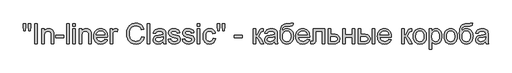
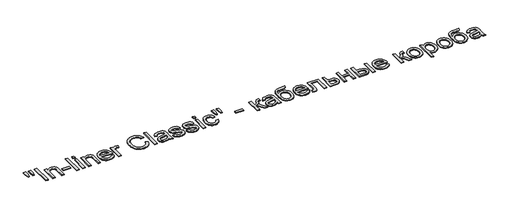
# One storey, part 22 of 28: 1 proxy.
"""IFC4 building model written with IfcOpenShell, lengths in millimetres."""

from ifc_helpers import new_model, si_unit, origin, origin_with_axes, place, context, project, spatial, polyline, outline, extrude, element, save

model = new_model("IFC4")

# Units and contexts
model_context = context("Model", 3, world=origin())
ifc_project = project(units=[si_unit("LENGTHUNIT", "METRE", prefix="MILLI")], contexts=[model_context])

# Site, building, storey
site = spatial("IfcSite", under=ifc_project)
building = spatial("IfcBuilding", under=site)
storey = spatial("IfcBuildingStorey", under=building, Name="Этаж 01", Elevation=0.0)

# Proxy
placement = place(None, origin())
element("IfcBuildingElementProxy", 1, Name="600 мм Arial", ObjectType="600 мм Arial", at=placement, inside=storey, context=model_context, shape_type="SweptSolid", body=[
    extrude(outline(polyline([(-5005.1661937, 9831.1726163), (-5023.5602935, 9947.5704795), (-5023.5602935, 10047.781535), (-4948.2180609, 10047.781535), (-4948.2180609, 9947.5704795), (-4964.6991743, 9831.1726163), (-5005.1661937, 9831.1726163)])), origin_with_axes(), (0.0, 0.0, 1.0), 20.0),
    extrude(outline(polyline([(-4854.9231869, 9831.1726163), (-4872.8758283, 9947.5704795), (-4872.8758283, 10047.781535), (-4797.5335957, 10047.781535), (-4797.5335957, 9947.5704795), (-4815.1919314, 9831.1726163), (-4854.9231869, 9831.1726163)])), origin_with_axes(), (0.0, 0.0, 1.0), 20.0),
    extrude(outline(polyline([(-4684.5202467, 9445.0436741), (-4684.5202467, 10047.781535), (-4609.1780141, 10047.781535), (-4609.1780141, 9445.0436741), (-4684.5202467, 9445.0436741)])), origin_with_axes(), (0.0, 0.0, 1.0), 20.0),
    extrude(outline(polyline([(-4467.911328, 9445.0436741), (-4467.911328, 9887.6792907), (-4392.5690954, 9887.6792907), (-4392.5690954, 9825.8751155), (-4366.3942914, 9857.0347205), (-4334.9587749, 9879.2915812), (-4298.2625459, 9892.6456976), (-4256.3056044, 9897.0970698), (-4219.1679169, 9893.5102203), (-4185.1572265, 9882.749672), (-4156.7935247, 9866.158194), (-4136.5968031, 9845.0785557), (-4122.8931988, 9819.5659393), (-4114.0088486, 9789.6755272), (-4110.0357231, 9716.8348922), (-4110.0357231, 9445.0436741), (-4185.3779557, 9445.0436741), (-4185.3779557, 9706.6813491), (-4187.5484595, 9745.6400524), (-4194.0599708, 9773.3415666), (-4206.0713179, 9793.1888003), (-4224.7413292, 9808.5846617), (-4248.672053, 9818.4622933), (-4276.4655377, 9821.7548372), (-4299.3431993, 9819.9062302), (-4320.592983, 9814.3604091), (-4340.2148889, 9805.1173739), (-4358.208917, 9792.1771248), (-4373.241495, 9774.0681336), (-4383.9790508, 9749.3188723), (-4390.4215842, 9717.9293411), (-4392.5690954, 9679.8995398), (-4392.5690954, 9445.0436741), (-4467.911328, 9445.0436741)])), origin_with_axes(), (0.0, 0.0, 1.0), 20.0),
    extrude(outline(polyline([(-4044.1112695, 9623.9814766), (-4044.1112695, 9699.3237092), (-3808.6667926, 9699.3237092), (-3808.6667926, 9623.9814766), (-4044.1112695, 9623.9814766)])), origin_with_axes(), (0.0, 0.0, 1.0), 20.0),
    extrude(outline(polyline([(-3723.9067809, 9445.0436741), (-3723.9067809, 10047.781535), (-3648.5645483, 10047.781535), (-3648.5645483, 9445.0436741), (-3723.9067809, 9445.0436741)])), origin_with_axes(), (0.0, 0.0, 1.0), 20.0),
    extrude(outline(polyline([(-3535.5511994, 9972.4393024), (-3535.5511994, 10047.781535), (-3460.2089668, 10047.781535), (-3460.2089668, 9972.4393024), (-3535.5511994, 9972.4393024)])), origin_with_axes(), (0.0, 0.0, 1.0), 20.0),
    extrude(outline(polyline([(-3535.5511994, 9445.0436741), (-3535.5511994, 9887.6792907), (-3460.2089668, 9887.6792907), (-3460.2089668, 9445.0436741), (-3535.5511994, 9445.0436741)])), origin_with_axes(), (0.0, 0.0, 1.0), 20.0),
    extrude(outline(polyline([(-3347.1956179, 9445.0436741), (-3347.1956179, 9887.6792907), (-3271.8533853, 9887.6792907), (-3271.8533853, 9825.8751155), (-3245.6785813, 9857.0347205), (-3214.2430648, 9879.2915812), (-3177.5468358, 9892.6456976), (-3135.5898942, 9897.0970698), (-3098.4522068, 9893.5102203), (-3064.4415164, 9882.749672), (-3036.0778146, 9866.158194), (-3015.881093, 9845.0785557), (-3002.1774887, 9819.5659393), (-2993.2931385, 9789.6755272), (-2989.320013, 9716.8348922), (-2989.320013, 9445.0436741), (-3064.6622456, 9445.0436741), (-3064.6622456, 9706.6813491), (-3066.8327493, 9745.6400524), (-3073.3442607, 9773.3415666), (-3085.3556078, 9793.1888003), (-3104.0256191, 9808.5846617), (-3127.9563428, 9818.4622933), (-3155.7498276, 9821.7548372), (-3178.6274892, 9819.9062302), (-3199.8772729, 9814.3604091), (-3219.4991788, 9805.1173739), (-3237.4932069, 9792.1771248), (-3252.5257849, 9774.0681336), (-3263.2633407, 9749.3188723), (-3269.7058741, 9717.9293411), (-3271.8533853, 9679.8995398), (-3271.8533853, 9445.0436741), (-3347.1956179, 9445.0436741)])), origin_with_axes(), (0.0, 0.0, 1.0), 20.0),
    extrude(outline(polyline([(-2575.8206504, 9576.8925812), (-2501.9499458, 9567.4748021), (-2513.2761127, 9537.8878926), (-2528.5662081, 9511.8142562), (-2547.820232, 9489.2538929), (-2571.0381844, 9470.2068026), (-2597.9809421, 9455.0776555), (-2628.4093816, 9444.2711219), (-2662.323503, 9437.7872018), (-2699.7233064, 9435.625895), (-2746.4719109, 9439.3552988), (-2788.1253498, 9450.5435099), (-2824.6836231, 9469.1905286), (-2856.1467307, 9495.2963547), (-2881.4478149, 9528.1344213), (-2899.5200179, 9566.9781614), (-2910.3633397, 9611.8275752), (-2913.9777804, 9662.6826625), (-2910.3265515, 9715.2621966), (-2899.3728651, 9761.606131), (-2881.1167211, 9801.7144655), (-2855.5581195, 9835.5872002), (-2824.1777853, 9862.4977681), (-2788.4564436, 9881.7196024), (-2748.3940943, 9893.2527029), (-2703.9907375, 9897.0970698), (-2661.0175219, 9893.2619), (-2622.1553877, 9881.7563906), (-2587.4043347, 9862.5805416), (-2556.764363, 9835.734353), (-2531.7529859, 9801.9351947), (-2513.8877165, 9761.9004366), (-2503.1685549, 9715.6300786), (-2499.595501, 9663.1241209), (-2500.0369594, 9642.8170347), (-2838.6355477, 9642.8170347), (-2834.2715476, 9612.7518787), (-2825.594131, 9586.4207249), (-2812.6032981, 9563.8235733), (-2795.2990487, 9544.960424), (-2774.6378762, 9530.0887944), (-2751.5762736, 9519.4662017), (-2726.114241, 9513.0926462), (-2698.2517784, 9510.9681277), (-2658.1526409, 9514.904465), (-2624.3810737, 9526.713477), (-2596.9370769, 9547.1309278), (-2575.8206504, 9576.8925812)]), holes=[polyline([(-2838.6355477, 9718.1592673), (-2574.9377336, 9718.1592673), (-2585.1280649, 9757.9640992), (-2593.8928534, 9773.6174781), (-2605.1040572, 9786.4381656), (-2625.6502666, 9801.8892094), (-2649.0291674, 9812.9256693), (-2675.2407596, 9819.5475452), (-2704.2850431, 9821.7548372), (-2730.7771453, 9819.9936021), (-2755.0711525, 9814.709897), (-2777.1670649, 9805.9037217), (-2797.0648823, 9793.5750763), (-2813.7621263, 9778.294178), (-2826.2563186, 9760.6312437), (-2834.5474591, 9740.5862735), (-2838.6355477, 9718.1592673)])]), origin_with_axes(), (0.0, 0.0, 1.0), 20.0),
    extrude(outline(polyline([(-2424.2532684, 9445.0436741), (-2424.2532684, 9887.6792907), (-2358.3288148, 9887.6792907), (-2358.3288148, 9822.1962956), (-2333.9750268, 9860.1617175), (-2311.5342251, 9882.5289428), (-2289.0198469, 9893.455038), (-2264.4453297, 9897.0970698), (-2226.9213662, 9891.2845343), (-2188.8087915, 9873.8469277), (-2213.9719199, 9806.3037934), (-2240.4594236, 9817.8920762), (-2266.9469272, 9821.7548372), (-2289.4429112, 9818.039229), (-2309.5476623, 9806.8924046), (-2325.7896524, 9789.1604924), (-2336.6973535, 9765.6896211), (-2345.8576152, 9723.6039209), (-2348.9110358, 9677.6922479), (-2348.9110358, 9445.0436741), (-2424.2532684, 9445.0436741)])), origin_with_axes(), (0.0, 0.0, 1.0), 20.0),
    extrude(outline(polyline([(-1473.0575816, 9659.2981481), (-1397.715349, 9639.8739788), (-1412.6237669, 9593.0196082), (-1432.4801976, 9552.0789406), (-1457.2846411, 9517.0519761), (-1487.0370975, 9487.9387148), (-1521.066182, 9465.0518561), (-1558.7005101, 9448.7041), (-1599.9400818, 9438.8954463), (-1644.784897, 9435.625895), (-1690.7287597, 9438.0999015), (-1732.1752649, 9445.5219207), (-1769.1244128, 9457.8919528), (-1801.5762033, 9475.2099977), (-1829.9766934, 9497.2185381), (-1854.7719398, 9523.6600565), (-1875.9619428, 9554.5345529), (-1893.5467021, 9589.8420274), (-1907.3560725, 9628.0557697), (-1917.2199085, 9667.6490694), (-1923.1382101, 9708.6219266), (-1925.1109773, 9750.9743413), (-1922.8806927, 9796.4169648), (-1916.1898389, 9838.86135), (-1905.038416, 9878.3074969), (-1889.4264238, 9914.7554056), (-1869.7033503, 9947.6026692), (-1846.2186835, 9976.2468811), (-1818.9724232, 10000.6880411), (-1787.9645695, 10020.9261494), (-1754.2481847, 10036.7956589), (-1718.8763308, 10048.1310229), (-1681.849008, 10054.9322413), (-1643.1662162, 10057.1993141), (-1600.073439, 10054.2654552), (-1560.5583142, 10045.4638784), (-1524.6208418, 10030.7945839), (-1492.2610218, 10010.2575715), (-1464.0122831, 9984.3954672), (-1440.4080546, 9953.750897), (-1421.4483362, 9918.3238609), (-1407.1331281, 9878.1143588), (-1482.4753607, 9860.1617175), (-1494.3395551, 9889.7900137), (-1508.5949824, 9915.1048935), (-1525.2416427, 9936.1063569), (-1544.2795359, 9952.7944039), (-1565.8190267, 9965.5093253), (-1589.9704797, 9974.5914121), (-1616.7338949, 9980.0406641), (-1646.1092722, 9981.8570815), (-1679.9084305, 9979.8429276), (-1710.8197151, 9973.8004658), (-1738.8431261, 9963.7296962), (-1763.9786634, 9949.6306187), (-1785.9090289, 9932.1378298), (-1804.3169242, 9911.885926), (-1819.2023494, 9888.8749072), (-1830.5653046, 9863.1047734), (-1844.9678847, 9807.9592624), (-1849.7687447, 9751.1214941), (-1844.0849679, 9681.5182206), (-1836.9802468, 9650.248251), (-1827.0336374, 9621.3327262), (-1814.0841912, 9595.3464618), (-1797.9709598, 9572.8642733), (-1778.6939432, 9553.8861609), (-1756.2531415, 9538.4121245), (-1731.7384051, 9526.4053759), (-1706.2395843, 9517.8291269), (-1679.7566792, 9512.6833775), (-1652.2896897, 9510.9681277), (-1619.5343965, 9513.3041783), (-1589.4002626, 9520.3123303), (-1561.8872879, 9531.9925837), (-1536.9954724, 9548.3449384), (-1515.3134273, 9569.295818), (-1497.4297638, 9594.7716462), (-1483.3444819, 9624.7724229), (-1473.0575816, 9659.2981481)])), origin_with_axes(), (0.0, 0.0, 1.0), 20.0),
    extrude(outline(polyline([(-1303.5375583, 9445.0436741), (-1303.5375583, 10047.781535), (-1228.1953257, 10047.781535), (-1228.1953257, 9445.0436741), (-1303.5375583, 9445.0436741)])), origin_with_axes(), (0.0, 0.0, 1.0), 20.0),
    extrude(outline(polyline([(-832.6486044, 9501.5503486), (-868.6458577, 9470.6850492), (-905.7099687, 9450.4883276), (-944.6870661, 9439.3415032), (-986.4232784, 9435.625895), (-1019.9695179, 9437.8607782), (-1049.3862819, 9444.5654275), (-1074.6735705, 9455.7398431), (-1095.8313838, 9471.384025), (-1112.5378249, 9490.5046917), (-1124.4709971, 9512.1085618), (-1131.6309004, 9536.1956355), (-1134.0175349, 9562.7659126), (-1130.4122913, 9593.999094), (-1119.5965607, 9622.3627958), (-1102.9131122, 9646.6430075), (-1081.7047152, 9665.6257184), (-1056.78071, 9679.9731162), (-1028.9504371, 9690.3473885), (-963.7617475, 9701.678154), (-886.7272577, 9713.5975306), (-833.0900628, 9727.5770464), (-832.6486044, 9744.3524654), (-837.8357406, 9777.9768798), (-844.3196607, 9790.4296853), (-853.397149, 9799.9762231), (-869.0873161, 9809.5043667), (-888.1987857, 9816.3101836), (-936.6856327, 9821.7548372), (-981.5672361, 9818.1311995), (-1012.9107821, 9807.2602866), (-1034.284726, 9787.1555355), (-1049.2575232, 9755.8303836), (-1124.5997558, 9765.2481627), (-1111.5215509, 9806.4509462), (-1092.005411, 9838.8245618), (-1064.2303204, 9863.58302), (-1026.3752631, 9881.9403316), (-980.077314, 9893.3078852), (-926.973548, 9897.0970698), (-876.0402858, 9893.7493436), (-835.6652368, 9883.7061652), (-805.2230017, 9868.6046093), (-784.0881811, 9850.0817508), (-770.0718771, 9827.1810966), (-760.9851918, 9798.9461535), (-757.3063718, 9733.0216999), (-757.3063718, 9639.2853676), (-753.4803991, 9508.3929537), (-747.8150164, 9476.0377322), (-738.4708137, 9445.0436741), (-813.8130463, 9445.0436741), (-825.8795757, 9471.2368722), (-832.6486044, 9501.5503486)]), holes=[polyline([(-832.6486044, 9652.2348138), (-883.269167, 9639.6900378), (-954.1968156, 9629.1318245), (-1019.0176232, 9616.9181423), (-1035.8850127, 9608.567221), (-1048.3746064, 9597.0525145), (-1056.1001283, 9583.2569397), (-1058.6753023, 9568.0634133), (-1053.0651019, 9545.6593998), (-1036.2345006, 9527.3020882), (-1008.5513804, 9515.0516178), (-970.3836234, 9510.9681277), (-929.916604, 9515.4746821), (-894.158474, 9528.9943454), (-865.1693728, 9548.9151555), (-845.0094395, 9572.62515), (-836.069907, 9597.0525145), (-833.0900628, 9630.8976581), (-832.6486044, 9652.2348138)])]), origin_with_axes(), (0.0, 0.0, 1.0), 20.0),
    extrude(outline(polyline([(-681.9641392, 9576.8925812), (-606.6219066, 9586.3103603), (-602.0693669, 9569.1302711), (-594.7393182, 9554.0838975), (-584.6317603, 9541.1712395), (-571.7466935, 9530.392297), (-556.0473293, 9521.8942229), (-537.4968797, 9515.82417), (-491.8427241, 9510.9681277), (-446.7403915, 9515.4194998), (-429.2108144, 9520.983715), (-415.0289635, 9528.7736162), (-396.2669818, 9548.1242092), (-391.5764863, 9558.9583339), (-390.0129878, 9570.5650109), (-391.5856834, 9580.736948), (-396.30377, 9589.768451), (-415.1761163, 9604.4101544), (-443.3926653, 9613.9750863), (-492.7256409, 9625.8944629), (-561.4827858, 9645.7784848), (-606.1804482, 9662.7562389), (-634.8936379, 9681.2790973), (-655.6973648, 9705.7984323), (-668.3341113, 9734.7507453), (-672.5463601, 9766.5725379), (-669.1618458, 9795.7639742), (-659.0083027, 9822.7113304), (-643.0054359, 9846.3477486), (-622.0729504, 9865.606371), (-601.2692236, 9877.7280827), (-574.1747146, 9887.9000199), (-542.8495627, 9894.7978073), (-509.3539071, 9897.0970698), (-460.3152371, 9893.3998557), (-417.6777139, 9882.3082136), (-383.3911119, 9864.9073952), (-359.4052058, 9842.2826525), (-343.5127037, 9812.7601224), (-333.5063134, 9774.6659418), (-408.848546, 9765.2481627), (-418.3582956, 9788.9581573), (-437.1754596, 9806.8188282), (-465.4839792, 9818.0208349), (-503.4677952, 9821.7548372), (-546.7307178, 9818.1863818), (-575.5726662, 9807.4810158), (-591.7962622, 9792.029972), (-597.2041275, 9774.2244834), (-594.9600474, 9762.6362006), (-588.2278068, 9752.2987165), (-576.7131004, 9743.0648784), (-560.1216224, 9735.6704503), (-495.2272385, 9719.6307953), (-384.6419107, 9684.166971), (-355.4320803, 9667.207611), (-333.2855842, 9643.9942571), (-319.3244625, 9614.4533329), (-314.6707552, 9578.511262), (-320.1338029, 9541.3551805), (-336.5229457, 9506.4063909), (-363.2127845, 9476.4056142), (-399.5779197, 9454.0935712), (-443.5030299, 9440.2428141), (-492.8727937, 9435.625895), (-533.4225866, 9437.8515811), (-568.8404257, 9444.5286393), (-599.126311, 9455.6570697), (-624.2802424, 9471.2368722), (-644.8264518, 9491.1944704), (-661.2891711, 9515.456288), (-673.6684002, 9544.0223249), (-681.9641392, 9576.8925812)])), origin_with_axes(), (0.0, 0.0, 1.0), 20.0),
    extrude(outline(polyline([(-258.1640808, 9576.8925812), (-182.8218482, 9586.3103603), (-178.2693085, 9569.1302711), (-170.9392597, 9554.0838975), (-160.8317019, 9541.1712395), (-147.946635, 9530.392297), (-132.2472709, 9521.8942229), (-113.6968213, 9515.82417), (-68.0426657, 9510.9681277), (-22.9403331, 9515.4194998), (-5.410756, 9520.983715), (8.7710949, 9528.7736162), (27.5330767, 9548.1242092), (32.2235721, 9558.9583339), (33.7870706, 9570.5650109), (32.2143751, 9580.736948), (27.4962885, 9589.768451), (8.6239421, 9604.4101544), (-19.5926069, 9613.9750863), (-68.9255825, 9625.8944629), (-137.6827274, 9645.7784848), (-182.3803898, 9662.7562389), (-211.0935795, 9681.2790973), (-231.8973063, 9705.7984323), (-244.5340529, 9734.7507453), (-248.7463017, 9766.5725379), (-245.3617873, 9795.7639742), (-235.2082443, 9822.7113304), (-219.2053775, 9846.3477486), (-198.272892, 9865.606371), (-177.4691651, 9877.7280827), (-150.3746562, 9887.9000199), (-119.0495043, 9894.7978073), (-85.5538486, 9897.0970698), (-36.5151787, 9893.3998557), (6.1223446, 9882.3082136), (40.4089465, 9864.9073952), (64.3948526, 9842.2826525), (80.2873548, 9812.7601224), (90.2937451, 9774.6659418), (14.9515124, 9765.2481627), (5.4417629, 9788.9581573), (-13.3754012, 9806.8188282), (-41.6839207, 9818.0208349), (-79.6677367, 9821.7548372), (-122.9306593, 9818.1863818), (-151.7726078, 9807.4810158), (-167.9962038, 9792.029972), (-173.4040691, 9774.2244834), (-171.1599889, 9762.6362006), (-164.4277484, 9752.2987165), (-152.913042, 9743.0648784), (-136.321564, 9735.6704503), (-71.42718, 9719.6307953), (39.1581477, 9684.166971), (68.3679781, 9667.207611), (90.5144743, 9643.9942571), (104.475596, 9614.4533329), (109.1293032, 9578.511262), (103.6662556, 9541.3551805), (87.2771127, 9506.4063909), (60.5872739, 9476.4056142), (24.2221387, 9454.0935712), (-19.7029715, 9440.2428141), (-69.0727353, 9435.625895), (-109.6225282, 9437.8515811), (-145.0403673, 9444.5286393), (-175.3262525, 9455.6570697), (-200.4801839, 9471.2368722), (-221.0263934, 9491.1944704), (-237.4891126, 9515.456288), (-249.8683418, 9544.0223249), (-258.1640808, 9576.8925812)])), origin_with_axes(), (0.0, 0.0, 1.0), 20.0),
    extrude(outline(polyline([(193.8893149, 9972.4393024), (193.8893149, 10047.781535), (269.2315475, 10047.781535), (269.2315475, 9972.4393024), (193.8893149, 9972.4393024)])), origin_with_axes(), (0.0, 0.0, 1.0), 20.0),
    extrude(outline(polyline([(193.8893149, 9445.0436741), (193.8893149, 9887.6792907), (269.2315475, 9887.6792907), (269.2315475, 9445.0436741), (193.8893149, 9445.0436741)])), origin_with_axes(), (0.0, 0.0, 1.0), 20.0),
    extrude(outline(polyline([(664.7782687, 9605.1459184), (740.1205013, 9595.7281393), (731.9259299, 9560.176943), (719.1144394, 9528.7184339), (701.6860299, 9501.352612), (679.6407013, 9478.0794773), (653.9073558, 9459.5060351), (625.4148952, 9446.2392906), (594.1633198, 9438.2792439), (560.1526293, 9435.625895), (517.8967836, 9439.3277076), (480.0095367, 9450.4331453), (446.4908884, 9468.9422082), (417.3408388, 9494.8548963), (393.7458073, 9527.6837658), (376.8922134, 9566.9413732), (366.7800571, 9612.6277185), (363.4093383, 9664.7428016), (369.1666915, 9731.7892953), (376.363383, 9761.9602174), (386.4387512, 9789.8962564), (399.4617738, 9815.0363922), (415.5014288, 9836.8196049), (434.5577161, 9855.2458943), (456.6306359, 9870.3152605), (480.722308, 9882.0323021), (505.8348527, 9890.4016175), (531.9682699, 9895.4232067), (559.1225597, 9897.0970698), (592.5492375, 9894.7978073), (622.784539, 9887.9000199), (649.8284641, 9876.4037076), (673.681013, 9860.3088703), (693.9375154, 9839.98339), (710.193301, 9815.7951489), (722.44837, 9787.7441467), (730.7027223, 9755.8303836), (655.3604897, 9746.4126046), (641.6936735, 9779.2828608), (620.4117001, 9802.8457026), (592.6917918, 9817.0275535), (559.7111709, 9821.7548372), (534.1111826, 9819.4279836), (511.0219888, 9812.4474227), (490.4435897, 9800.8131546), (472.3759853, 9784.5251793), (457.665304, 9763.2064176), (447.1576745, 9736.4797907), (440.8530968, 9704.3452984), (438.7515709, 9666.8029408), (440.8071115, 9628.6949646), (446.9737335, 9596.1879918), (457.2514367, 9569.2820224), (471.6402213, 9547.9770564), (489.3491408, 9531.7856501), (509.5872491, 9520.2203598), (532.354546, 9513.2811857), (557.6510317, 9510.9681277), (596.6649173, 9516.743875), (613.5369053, 9523.9635591), (628.6522568, 9534.0711169), (641.5879075, 9547.176913), (651.920793, 9563.391312), (659.6509134, 9582.7143138), (664.7782687, 9605.1459184)])), origin_with_axes(), (0.0, 0.0, 1.0), 20.0),
    extrude(outline(polyline([(805.6034965, 9831.1726163), (787.2093967, 9947.5704795), (787.2093967, 10047.781535), (862.5516293, 10047.781535), (862.5516293, 9947.5704795), (846.070516, 9831.1726163), (805.6034965, 9831.1726163)])), origin_with_axes(), (0.0, 0.0, 1.0), 20.0),
    extrude(outline(polyline([(955.8465033, 9831.1726163), (937.8938619, 9947.5704795), (937.8938619, 10047.781535), (1013.2360946, 10047.781535), (1013.2360946, 9947.5704795), (995.5777588, 9831.1726163), (955.8465033, 9831.1726163)])), origin_with_axes(), (0.0, 0.0, 1.0), 20.0),
    extrude(outline(polyline([(1305.1872459, 9623.9814766), (1305.1872459, 9699.3237092), (1540.6317228, 9699.3237092), (1540.6317228, 9623.9814766), (1305.1872459, 9623.9814766)])), origin_with_axes(), (0.0, 0.0, 1.0), 20.0),
    extrude(outline(polyline([(1860.8362114, 9887.6792907), (1936.1784441, 9887.6792907), (1936.1784441, 9699.3237092), (1966.8230143, 9702.7082235), (1986.6518538, 9712.8617666), (2004.199825, 9739.3492703), (2028.0017901, 9791.7356664), (2047.1868361, 9834.5755247), (2062.3619684, 9859.7938355), (2076.5254252, 9873.534228), (2092.6754448, 9881.9403316), (2115.024276, 9886.2445509), (2147.7841677, 9887.6792907), (2162.2051419, 9887.6792907), (2162.2051419, 9811.8955997), (2141.8980558, 9812.3370581), (2118.3536081, 9810.3504953), (2105.1098562, 9804.390807), (2094.367702, 9787.799329), (2079.2109638, 9754.8003141), (2063.3000675, 9721.7461168), (2048.823911, 9701.1631192), (2031.2943339, 9687.4227266), (2006.2231759, 9674.8963447), (2030.0987174, 9664.2921462), (2053.7535297, 9645.5761497), (2077.1876128, 9618.7483552), (2100.4009667, 9583.8087627), (2181.0407, 9445.0436741), (2095.3977716, 9445.0436741), (2016.376719, 9580.8657067), (1995.0395633, 9617.0101128), (1976.6454635, 9638.3288744), (1958.0674228, 9648.7583289), (1936.1784441, 9652.2348138), (1936.1784441, 9445.0436741), (1860.8362114, 9445.0436741), (1860.8362114, 9887.6792907)])), origin_with_axes(), (0.0, 0.0, 1.0), 20.0),
    extrude(outline(polyline([(2510.6629677, 9501.5503486), (2474.6657145, 9470.6850492), (2437.6016035, 9450.4883276), (2398.6245061, 9439.3415032), (2356.8882937, 9435.625895), (2323.3420543, 9437.8607782), (2293.9252903, 9444.5654275), (2268.6380016, 9455.7398431), (2247.4801884, 9471.384025), (2230.7737473, 9490.5046917), (2218.8405751, 9512.1085618), (2211.6806717, 9536.1956355), (2209.2940373, 9562.7659126), (2212.8992808, 9593.999094), (2223.7150115, 9622.3627958), (2240.39846, 9646.6430075), (2261.606857, 9665.6257184), (2286.5308622, 9679.9731162), (2314.3611351, 9690.3473885), (2379.5498246, 9701.678154), (2456.5843144, 9713.5975306), (2510.2215093, 9727.5770464), (2510.6629677, 9744.3524654), (2505.4758316, 9777.9768798), (2498.9919114, 9790.4296853), (2489.9144232, 9799.9762231), (2474.2242561, 9809.5043667), (2455.1127865, 9816.3101836), (2406.6259395, 9821.7548372), (2361.7443361, 9818.1311995), (2330.4007901, 9807.2602866), (2309.0268462, 9787.1555355), (2294.054049, 9755.8303836), (2218.7118164, 9765.2481627), (2231.7900213, 9806.4509462), (2251.3061611, 9838.8245618), (2279.0812518, 9863.58302), (2316.9363091, 9881.9403316), (2363.2342582, 9893.3078852), (2416.3380242, 9897.0970698), (2467.2712864, 9893.7493436), (2507.6463354, 9883.7061652), (2538.0885705, 9868.6046093), (2559.2233911, 9850.0817508), (2573.2396951, 9827.1810966), (2582.3263804, 9798.9461535), (2586.0052003, 9733.0216999), (2586.0052003, 9639.2853676), (2589.8311731, 9508.3929537), (2595.4965558, 9476.0377322), (2604.8407585, 9445.0436741), (2529.4985259, 9445.0436741), (2517.4319964, 9471.2368722), (2510.6629677, 9501.5503486)]), holes=[polyline([(2510.6629677, 9652.2348138), (2460.0424052, 9639.6900378), (2389.1147565, 9629.1318245), (2324.293949, 9616.9181423), (2307.4265595, 9608.567221), (2294.9369658, 9597.0525145), (2287.2114439, 9583.2569397), (2284.6362699, 9568.0634133), (2290.2464703, 9545.6593998), (2307.0770716, 9527.3020882), (2334.7601917, 9515.0516178), (2372.9279487, 9510.9681277), (2413.3949682, 9515.4746821), (2449.1530981, 9528.9943454), (2478.1421994, 9548.9151555), (2498.3021327, 9572.62515), (2507.2416652, 9597.0525145), (2510.2215093, 9630.8976581), (2510.6629677, 9652.2348138)])]), origin_with_axes(), (0.0, 0.0, 1.0), 20.0),
    extrude(outline(polyline([(3000.3874797, 10057.1993141), (3066.3119332, 10057.1993141), (3059.1750225, 10021.3860019), (3046.8877639, 9998.4117713), (3029.8548275, 9984.8185315), (3008.4808836, 9977.1481919), (2973.6424587, 9973.6165248), (2916.2160792, 9972.4393024), (2839.6046537, 9968.0982949), (2812.1560583, 9962.6720354), (2791.9455412, 9955.0752722), (2776.5220886, 9945.0872761), (2763.4346866, 9932.4873177), (2752.6833353, 9917.2753972), (2744.2680347, 9899.4515146), (2732.9924515, 9855.7103453), (2728.1548033, 9801.0062926), (2758.4498856, 9843.0919929), (2793.4170692, 9873.1111637), (2812.6618961, 9883.6049976), (2833.0931424, 9891.1005933), (2877.5148933, 9897.0970698), (2918.5613269, 9893.2848926), (2955.9105465, 9881.8483611), (2989.562552, 9862.7874752), (3019.5173435, 9836.102235), (3044.1102548, 9802.9146805), (3061.6766201, 9764.3468518), (3072.2164393, 9720.398749), (3075.7297123, 9671.070372), (3073.9868714, 9633.3348763), (3068.7583485, 9599.1494419), (3060.0441437, 9568.5140687), (3047.8442571, 9541.4287569), (3017.3652338, 9496.5655475), (2981.6990744, 9463.2170447), (2960.8401652, 9451.1459167), (2936.5231653, 9442.5236824), (2908.7480747, 9437.3503419), (2877.5148933, 9435.625895), (2841.3842829, 9437.8469826), (2809.5119065, 9444.5102452), (2781.8977642, 9455.615683), (2758.5418561, 9471.1632958), (2738.5520682, 9490.1735979), (2721.0362867, 9511.6671034), (2705.9945116, 9535.6438125), (2693.4267429, 9562.103725), (2683.5123232, 9594.9417916), (2676.4305948, 9638.0529629), (2672.1815577, 9691.4372389), (2670.765212, 9755.0946197), (2674.3382659, 9834.4237734), (2685.0574275, 9899.6538497), (2702.9226969, 9950.7848485), (2714.535122, 9971.0631938), (2727.9340741, 9987.8167698), (2760.3582734, 10014.0513546), (2800.4620094, 10032.7903437), (2848.2452821, 10044.0337372), (2903.7080914, 10047.781535), (2987.5851863, 10049.4737922), (2995.7889548, 10052.2513013), (3000.3874797, 10057.1993141)]), holes=[polyline([(3000.3874797, 9673.4248167), (2998.3457346, 9704.543035), (2992.2204994, 9732.7090002), (2982.011774, 9757.9227125), (2967.7195585, 9780.1841717), (2949.7117349, 9798.3713379), (2928.3561851, 9811.3621708), (2903.6529091, 9819.1566706), (2875.6019069, 9821.7548372), (2846.3276972, 9819.0095178), (2820.6035487, 9810.7735596), (2798.4294614, 9797.0469627), (2779.8054354, 9777.829727), (2765.0625644, 9754.0231633), (2754.5319423, 9726.5285827), (2748.2135691, 9695.3459851), (2746.1074446, 9660.4753705), (2748.4342983, 9626.3313228), (2755.4148591, 9596.4455092), (2767.0491272, 9570.8179297), (2783.3371026, 9549.4485843), (2803.0371834, 9532.6133845), (2824.907768, 9520.5882418), (2848.9488564, 9513.3731562), (2875.1604485, 9510.9681277), (2901.7307256, 9513.7502352), (2925.6706465, 9522.096558), (2946.9802111, 9536.0070959), (2965.6594194, 9555.4818491), (2980.8529458, 9579.5459301), (2991.7054646, 9607.2244517), (2998.2169759, 9638.5174139), (3000.3874797, 9673.4248167)])]), origin_with_axes(), (0.0, 0.0, 1.0), 20.0),
    extrude(outline(polyline([(3479.8112958, 9576.8925812), (3553.6820005, 9567.4748021), (3542.3558335, 9537.8878926), (3527.0657381, 9511.8142562), (3507.8117142, 9489.2538929), (3484.5937618, 9470.2068026), (3457.6510041, 9455.0776555), (3427.2225646, 9444.2711219), (3393.3084432, 9437.7872018), (3355.9086398, 9435.625895), (3309.1600353, 9439.3552988), (3267.5065964, 9450.5435099), (3230.9483231, 9469.1905286), (3199.4852155, 9495.2963547), (3174.1841313, 9528.1344213), (3156.1119283, 9566.9781614), (3145.2686065, 9611.8275752), (3141.6541659, 9662.6826625), (3145.3053947, 9715.2621966), (3156.2590811, 9761.606131), (3174.5152251, 9801.7144655), (3200.0738267, 9835.5872002), (3231.4541609, 9862.4977681), (3267.1755026, 9881.7196024), (3307.2378519, 9893.2527029), (3351.6412087, 9897.0970698), (3394.6144243, 9893.2619), (3433.4765585, 9881.7563906), (3468.2276115, 9862.5805416), (3498.8675832, 9835.734353), (3523.8789603, 9801.9351947), (3541.7442297, 9761.9004366), (3552.4633913, 9715.6300786), (3556.0364452, 9663.1241209), (3555.5949868, 9642.8170347), (3216.9963985, 9642.8170347), (3221.3603986, 9612.7518787), (3230.0378152, 9586.4207249), (3243.0286481, 9563.8235733), (3260.3328975, 9544.960424), (3280.9940701, 9530.0887944), (3304.0556726, 9519.4662017), (3329.5177052, 9513.0926462), (3357.3801678, 9510.9681277), (3397.4793053, 9514.904465), (3431.2508725, 9526.713477), (3458.6948693, 9547.1309278), (3479.8112958, 9576.8925812)]), holes=[polyline([(3216.9963985, 9718.1592673), (3480.6942126, 9718.1592673), (3470.5038813, 9757.9640992), (3461.7390928, 9773.6174781), (3450.527889, 9786.4381656), (3429.9816796, 9801.8892094), (3406.6027788, 9812.9256693), (3380.3911866, 9819.5475452), (3351.3469031, 9821.7548372), (3324.8548009, 9819.9936021), (3300.5607937, 9814.709897), (3278.4648813, 9805.9037217), (3258.5670639, 9793.5750763), (3241.8698199, 9778.294178), (3229.3756276, 9760.6312437), (3221.0844871, 9740.5862735), (3216.9963985, 9718.1592673)])]), origin_with_axes(), (0.0, 0.0, 1.0), 20.0),
    extrude(outline(polyline([(3669.0497941, 9887.6792907), (4008.0898409, 9887.6792907), (4008.0898409, 9445.4851325), (3932.7476083, 9445.4851325), (3932.7476083, 9812.3370581), (3744.3920268, 9812.3370581), (3744.3920268, 9601.1727929), (3743.1228339, 9539.8836525), (3739.3152552, 9503.7576405), (3729.8055056, 9481.7031149), (3711.4298, 9462.6284335), (3683.5443447, 9449.439864), (3645.5053464, 9445.0436741), (3584.2897825, 9448.8696469), (3584.2897825, 9520.3859067), (3617.9877732, 9520.3859067), (3638.423618, 9521.544735), (3652.053646, 9525.0212199), (3660.5701142, 9531.0176964), (3665.6652798, 9539.7364997), (3669.0497941, 9605.440224), (3669.0497941, 9887.6792907)])), origin_with_axes(), (0.0, 0.0, 1.0), 20.0),
    extrude(outline(polyline([(4121.1031898, 9887.6792907), (4196.4454224, 9887.6792907), (4196.4454224, 9727.5770464), (4283.2655733, 9727.5770464), (4323.3463167, 9725.2180031), (4358.5342295, 9718.1408732), (4388.8293118, 9706.3456568), (4414.2315636, 9689.8323537), (4434.3179205, 9669.1711812), (4448.6653183, 9644.9323562), (4457.273757, 9617.1158788), (4460.1432366, 9585.7217491), (4457.7014198, 9557.7121337), (4450.3759696, 9531.8086427), (4438.1668859, 9508.0112761), (4421.0741687, 9486.320034), (4398.6103743, 9468.2616265), (4370.2880592, 9455.3627641), (4336.1072234, 9447.6234466), (4296.0678667, 9445.0436741), (4121.1031898, 9445.0436741), (4121.1031898, 9887.6792907)]), holes=[polyline([(4196.4454224, 9520.3859067), (4266.7844599, 9520.3859067), (4321.3597539, 9524.3406382), (4341.7910002, 9529.2840525), (4357.6513127, 9536.2048325), (4369.5293026, 9545.2225399), (4378.0135811, 9556.4567364), (4383.1041483, 9569.9074218), (4384.801004, 9585.5745963), (4379.7794147, 9610.1859018), (4364.714647, 9631.9277277), (4351.6226465, 9640.8120778), (4332.4330019, 9647.1580423), (4275.7607806, 9652.2348138), (4196.4454224, 9652.2348138), (4196.4454224, 9520.3859067)])]), origin_with_axes(), (0.0, 0.0, 1.0), 20.0),
    extrude(outline(polyline([(4554.3210273, 9887.6792907), (4629.6632599, 9887.6792907), (4629.6632599, 9718.1592673), (4827.4366206, 9718.1592673), (4827.4366206, 9887.6792907), (4902.7788532, 9887.6792907), (4902.7788532, 9445.0436741), (4827.4366206, 9445.0436741), (4827.4366206, 9642.8170347), (4629.6632599, 9642.8170347), (4629.6632599, 9445.0436741), (4554.3210273, 9445.0436741), (4554.3210273, 9887.6792907)])), origin_with_axes(), (0.0, 0.0, 1.0), 20.0),
    extrude(outline(polyline([(5430.1744814, 9887.6792907), (5505.5167141, 9887.6792907), (5505.5167141, 9445.0436741), (5430.1744814, 9445.0436741), (5430.1744814, 9887.6792907)])), origin_with_axes(), (0.0, 0.0, 1.0), 20.0),
    extrude(outline(polyline([(5015.7922021, 9887.6792907), (5091.1344347, 9887.6792907), (5091.1344347, 9727.5770464), (5184.2821559, 9727.5770464), (5227.1450068, 9725.2180031), (5264.7931305, 9718.1408732), (5297.2265269, 9706.3456568), (5324.445196, 9689.8323537), (5345.9800883, 9669.1711812), (5361.3621543, 9644.9323562), (5370.5913938, 9617.1158788), (5373.667807, 9585.7217491), (5371.0880345, 9557.7121337), (5363.348717, 9531.8086427), (5350.4498546, 9508.0112761), (5332.3914471, 9486.320034), (5308.667657, 9468.2616265), (5278.7726463, 9455.3627641), (5242.7064152, 9447.6234466), (5200.4689637, 9445.0436741), (5015.7922021, 9445.0436741), (5015.7922021, 9887.6792907)]), holes=[polyline([(5091.1344347, 9520.3859067), (5168.5368065, 9520.3859067), (5228.5383599, 9524.3406382), (5251.0067527, 9529.2840525), (5268.4535564, 9536.2048325), (5281.5225642, 9545.2225399), (5290.8575699, 9556.4567364), (5296.4585733, 9569.9074218), (5298.3255744, 9585.5745963), (5292.7889504, 9610.1859018), (5276.1790783, 9631.9277277), (5261.7627026, 9640.8120778), (5240.6600716, 9647.1580423), (5178.396044, 9652.2348138), (5091.1344347, 9652.2348138), (5091.1344347, 9520.3859067)])]), origin_with_axes(), (0.0, 0.0, 1.0), 20.0),
    extrude(outline(polyline([(5928.4338557, 9576.8925812), (6002.3045603, 9567.4748021), (5990.9783934, 9537.8878926), (5975.688298, 9511.8142562), (5956.4342741, 9489.2538929), (5933.2163217, 9470.2068026), (5906.273564, 9455.0776555), (5875.8451245, 9444.2711219), (5841.9310031, 9437.7872018), (5804.5311997, 9435.625895), (5757.7825952, 9439.3552988), (5716.1291563, 9450.5435099), (5679.570883, 9469.1905286), (5648.1077754, 9495.2963547), (5622.8066912, 9528.1344213), (5604.7344882, 9566.9781614), (5593.8911664, 9611.8275752), (5590.2767258, 9662.6826625), (5593.9279546, 9715.2621966), (5604.881641, 9761.606131), (5623.137785, 9801.7144655), (5648.6963866, 9835.5872002), (5680.0767208, 9862.4977681), (5715.7980625, 9881.7196024), (5755.8604118, 9893.2527029), (5800.2637686, 9897.0970698), (5843.2369842, 9893.2619), (5882.0991184, 9881.7563906), (5916.8501714, 9862.5805416), (5947.4901431, 9835.734353), (5972.5015202, 9801.9351947), (5990.3667896, 9761.9004366), (6001.0859512, 9715.6300786), (6004.6590051, 9663.1241209), (6004.2175467, 9642.8170347), (5665.6189584, 9642.8170347), (5669.9829585, 9612.7518787), (5678.6603751, 9586.4207249), (5691.651208, 9563.8235733), (5708.9554574, 9544.960424), (5729.6166299, 9530.0887944), (5752.6782325, 9519.4662017), (5778.1402651, 9513.0926462), (5806.0027277, 9510.9681277), (5846.1018652, 9514.904465), (5879.8734324, 9526.713477), (5907.3174292, 9547.1309278), (5928.4338557, 9576.8925812)]), holes=[polyline([(5665.6189584, 9718.1592673), (5929.3167725, 9718.1592673), (5919.1264412, 9757.9640992), (5910.3616527, 9773.6174781), (5899.1504489, 9786.4381656), (5878.6042395, 9801.8892094), (5855.2253387, 9812.9256693), (5829.0137465, 9819.5475452), (5799.969463, 9821.7548372), (5773.4773608, 9819.9936021), (5749.1833536, 9814.709897), (5727.0874412, 9805.9037217), (5707.1896238, 9793.5750763), (5690.4923798, 9778.294178), (5677.9981875, 9760.6312437), (5669.707047, 9740.5862735), (5665.6189584, 9718.1592673)])]), origin_with_axes(), (0.0, 0.0, 1.0), 20.0),
    extrude(outline(polyline([(6315.4457146, 9887.6792907), (6390.7879473, 9887.6792907), (6390.7879473, 9699.3237092), (6421.4325175, 9702.7082235), (6441.261357, 9712.8617666), (6458.8093282, 9739.3492703), (6482.6112933, 9791.7356664), (6501.7963393, 9834.5755247), (6516.9714716, 9859.7938355), (6531.1349284, 9873.534228), (6547.284948, 9881.9403316), (6569.6337792, 9886.2445509), (6602.3936709, 9887.6792907), (6616.8146451, 9887.6792907), (6616.8146451, 9811.8955997), (6596.507559, 9812.3370581), (6572.9631113, 9810.3504953), (6559.7193594, 9804.390807), (6548.9772052, 9787.799329), (6533.820467, 9754.8003141), (6517.9095707, 9721.7461168), (6503.4334142, 9701.1631192), (6485.9038371, 9687.4227266), (6460.8326791, 9674.8963447), (6484.7082206, 9664.2921462), (6508.3630329, 9645.5761497), (6531.797116, 9618.7483552), (6555.0104699, 9583.8087627), (6635.6502032, 9445.0436741), (6550.0072748, 9445.0436741), (6470.9862222, 9580.8657067), (6449.6490665, 9617.0101128), (6431.2549667, 9638.3288744), (6412.676926, 9648.7583289), (6390.7879473, 9652.2348138), (6390.7879473, 9445.0436741), (6315.4457146, 9445.0436741), (6315.4457146, 9887.6792907)])), origin_with_axes(), (0.0, 0.0, 1.0), 20.0),
    extrude(outline(polyline([(6663.9035405, 9666.3614824), (6667.9778336, 9723.6866943), (6680.2007129, 9773.0840492), (6700.5721783, 9814.5535471), (6729.09223, 9848.095188), (6757.8054197, 9869.5335113), (6789.4984536, 9884.8465993), (6824.1713317, 9894.0344522), (6861.8240539, 9897.0970698), (6903.3901208, 9893.3676661), (6940.9738651, 9882.1794549), (6974.5752869, 9863.5324363), (7004.194386, 9837.4266102), (7028.3688316, 9804.7448934), (7045.6362928, 9766.3702028), (7055.9967695, 9722.3025383), (7059.4502617, 9672.5418999), (7057.9235514, 9632.2128362), (7053.3434206, 9596.4271151), (7045.7098692, 9565.1847367), (7035.0228972, 9538.4857009), (7021.4158619, 9515.4240983), (7005.0221205, 9495.0940196), (6985.841673, 9477.4954646), (6963.8745193, 9462.6284335), (6939.9759852, 9450.8148229), (6915.0013963, 9442.3765297), (6888.9507525, 9437.3135537), (6861.8240539, 9435.625895), (6819.6509817, 9439.3415032), (6781.7177494, 9450.4883276), (6748.0243572, 9469.0663684), (6718.570805, 9495.0756255), (6694.6538767, 9528.0746404), (6677.5703566, 9567.6219549), (6667.3202445, 9613.7175689), (6663.9035405, 9666.3614824)]), holes=[polyline([(6739.2457731, 9666.5086352), (6741.4254739, 9629.9641575), (6747.9645764, 9598.3217074), (6758.8630805, 9571.5812849), (6774.1209862, 9549.7428899), (6792.6806329, 9532.7789314), (6813.4843597, 9520.6618182), (6836.5321667, 9513.3915503), (6861.8240539, 9510.9681277), (6886.9871823, 9513.4053459), (6909.9430188, 9520.7170005), (6930.6915634, 9532.9030916), (6949.2328159, 9549.9636191), (6964.4907217, 9572.0181448), (6975.3892258, 9599.1862301), (6981.9283283, 9631.4678752), (6984.1080291, 9668.86308), (6981.9145327, 9704.2487294), (6975.3340435, 9735.063445), (6964.3665615, 9761.3072268), (6949.0120867, 9782.9800749), (6930.4018563, 9799.9440334), (6909.6671074, 9812.0611466), (6886.8078399, 9819.3314145), (6861.8240539, 9821.7548372), (6836.5321667, 9819.3406116), (6813.4843597, 9812.0979348), (6792.6806329, 9800.0268068), (6774.1209862, 9783.1272277), (6758.8630805, 9761.3532121), (6747.9645764, 9734.6587748), (6741.4254739, 9703.0439159), (6739.2457731, 9666.5086352)])]), origin_with_axes(), (0.0, 0.0, 1.0), 20.0),
    extrude(outline(polyline([(7144.2102734, 9275.5236507), (7144.2102734, 9887.6792907), (7219.552506, 9887.6792907), (7219.552506, 9813.8085861), (7244.1270233, 9850.2472977), (7271.6445965, 9876.2749489), (7303.7239065, 9891.8915396), (7341.983634, 9897.0970698), (7368.2596055, 9895.2760539), (7392.9352903, 9889.8130063), (7416.0106885, 9880.7079269), (7437.4857999, 9867.9608158), (7456.8915752, 9851.9027667), (7473.7589647, 9832.8648734), (7488.0879684, 9810.847136), (7499.8785863, 9785.8495544), (7515.6607239, 9730.3361614), (7520.9214364, 9669.7459968), (7514.9801422, 9605.3114653), (7507.5535244, 9575.6463809), (7497.1562596, 9547.6827508), (7483.9309018, 9522.1517403), (7468.0200055, 9499.784515), (7449.4235707, 9480.5810749), (7428.1415973, 9464.5414199), (7405.2179504, 9451.8908778), (7381.6964954, 9442.8547762), (7357.5772321, 9437.4331153), (7332.8601605, 9435.625895), (7298.2240707, 9440.4635433), (7267.303589, 9454.976488), (7240.8344794, 9476.8838608), (7219.552506, 9503.9047933), (7219.552506, 9275.5236507), (7144.2102734, 9275.5236507)]), holes=[polyline([(7219.552506, 9662.8298153), (7221.5896525, 9626.5198623), (7227.7010922, 9595.2866809), (7237.8868249, 9569.1302711), (7252.1468508, 9548.0506328), (7269.3131444, 9531.8270368), (7288.2176804, 9520.2387539), (7308.8604588, 9513.2857842), (7331.2414797, 9510.9681277), (7353.9443974, 9513.3685577), (7374.9642549, 9520.5698477), (7394.3010522, 9532.5719978), (7411.9547895, 9549.3750079), (7426.6654707, 9571.2180014), (7437.1731002, 9598.3401015), (7443.4776779, 9630.7413082), (7445.5792038, 9668.4216216), (7443.5282617, 9704.4188748), (7437.3754353, 9735.5968739), (7427.1207247, 9761.9556189), (7412.7641299, 9783.4951097), (7395.5564495, 9800.2337405), (7376.7484825, 9812.1899053), (7356.3402288, 9819.3636042), (7334.3316885, 9821.7548372), (7312.392126, 9819.2118529), (7291.7493475, 9811.5829), (7272.4033531, 9798.8679786), (7254.3541427, 9781.0670885), (7239.1284267, 9758.4193532), (7228.2529152, 9731.1638959), (7221.7276083, 9699.3007166), (7219.552506, 9662.8298153)])]), origin_with_axes(), (0.0, 0.0, 1.0), 20.0),
    extrude(outline(polyline([(7586.84589, 9666.3614824), (7590.9201831, 9723.6866943), (7603.1430624, 9773.0840492), (7623.5145278, 9814.5535471), (7652.0345795, 9848.095188), (7680.7477692, 9869.5335113), (7712.4408031, 9884.8465993), (7747.1136812, 9894.0344522), (7784.7664034, 9897.0970698), (7826.3324703, 9893.3676661), (7863.9162146, 9882.1794549), (7897.5176364, 9863.5324363), (7927.1367355, 9837.4266102), (7951.3111811, 9804.7448934), (7968.5786423, 9766.3702028), (7978.939119, 9722.3025383), (7982.3926112, 9672.5418999), (7980.8659009, 9632.2128362), (7976.2857701, 9596.4271151), (7968.6522187, 9565.1847367), (7957.9652467, 9538.4857009), (7944.3582114, 9515.4240983), (7927.96447, 9495.0940196), (7908.7840225, 9477.4954646), (7886.8168688, 9462.6284335), (7862.9183347, 9450.8148229), (7837.9437458, 9442.3765297), (7811.893102, 9437.3135537), (7784.7664034, 9435.625895), (7742.5933312, 9439.3415032), (7704.6600989, 9450.4883276), (7670.9667067, 9469.0663684), (7641.5131545, 9495.0756255), (7617.5962262, 9528.0746404), (7600.5127061, 9567.6219549), (7590.262594, 9613.7175689), (7586.84589, 9666.3614824)]), holes=[polyline([(7662.1881226, 9666.5086352), (7664.3678234, 9629.9641575), (7670.9069259, 9598.3217074), (7681.80543, 9571.5812849), (7697.0633357, 9549.7428899), (7715.6229824, 9532.7789314), (7736.4267092, 9520.6618182), (7759.4745162, 9513.3915503), (7784.7664034, 9510.9681277), (7809.9295318, 9513.4053459), (7832.8853683, 9520.7170005), (7853.6339129, 9532.9030916), (7872.1751654, 9549.9636191), (7887.4330712, 9572.0181448), (7898.3315753, 9599.1862301), (7904.8706778, 9631.4678752), (7907.0503786, 9668.86308), (7904.8568822, 9704.2487294), (7898.276393, 9735.063445), (7887.308911, 9761.3072268), (7871.9544362, 9782.9800749), (7853.3442058, 9799.9440334), (7832.6094569, 9812.0611466), (7809.7501894, 9819.3314145), (7784.7664034, 9821.7548372), (7759.4745162, 9819.3406116), (7736.4267092, 9812.0979348), (7715.6229824, 9800.0268068), (7697.0633357, 9783.1272277), (7681.80543, 9761.3532121), (7670.9069259, 9734.6587748), (7664.3678234, 9703.0439159), (7662.1881226, 9666.5086352)])]), origin_with_axes(), (0.0, 0.0, 1.0), 20.0),
    extrude(outline(polyline([(8377.9393324, 10057.1993141), (8443.8637859, 10057.1993141), (8436.7268752, 10021.3860019), (8424.4396166, 9998.4117713), (8407.4066802, 9984.8185315), (8386.0327363, 9977.1481919), (8351.1943114, 9973.6165248), (8293.7679319, 9972.4393024), (8217.1565064, 9968.0982949), (8189.707911, 9962.6720354), (8169.4973939, 9955.0752722), (8154.0739413, 9945.0872761), (8140.9865393, 9932.4873177), (8130.235188, 9917.2753972), (8121.8198874, 9899.4515146), (8110.5443042, 9855.7103453), (8105.706656, 9801.0062926), (8136.0017383, 9843.0919929), (8170.9689219, 9873.1111637), (8190.2137488, 9883.6049976), (8210.6449951, 9891.1005933), (8255.066746, 9897.0970698), (8296.1131796, 9893.2848926), (8333.4623992, 9881.8483611), (8367.1144047, 9862.7874752), (8397.0691962, 9836.102235), (8421.6621075, 9802.9146805), (8439.2284728, 9764.3468518), (8449.768292, 9720.398749), (8453.281565, 9671.070372), (8451.5387241, 9633.3348763), (8446.3102012, 9599.1494419), (8437.5959964, 9568.5140687), (8425.3961098, 9541.4287569), (8394.9170865, 9496.5655475), (8359.250927, 9463.2170447), (8338.3920179, 9451.1459167), (8314.075018, 9442.5236824), (8286.2999274, 9437.3503419), (8255.066746, 9435.625895), (8218.9361356, 9437.8469826), (8187.0637592, 9444.5102452), (8159.4496169, 9455.615683), (8136.0937088, 9471.1632958), (8116.1039209, 9490.1735979), (8098.5881394, 9511.6671034), (8083.5463643, 9535.6438125), (8070.9785956, 9562.103725), (8061.0641759, 9594.9417916), (8053.9824474, 9638.0529629), (8049.7334104, 9691.4372389), (8048.3170647, 9755.0946197), (8051.8901186, 9834.4237734), (8062.6092802, 9899.6538497), (8080.4745496, 9950.7848485), (8092.0869747, 9971.0631938), (8105.4859268, 9987.8167698), (8137.9101261, 10014.0513546), (8178.0138621, 10032.7903437), (8225.7971348, 10044.0337372), (8281.2599441, 10047.781535), (8365.137039, 10049.4737922), (8373.3408075, 10052.2513013), (8377.9393324, 10057.1993141)]), holes=[polyline([(8377.9393324, 9673.4248167), (8375.8975873, 9704.543035), (8369.7723521, 9732.7090002), (8359.5636267, 9757.9227125), (8345.2714112, 9780.1841717), (8327.2635876, 9798.3713379), (8305.9080377, 9811.3621708), (8281.2047618, 9819.1566706), (8253.1537596, 9821.7548372), (8223.8795499, 9819.0095178), (8198.1554014, 9810.7735596), (8175.9813141, 9797.0469627), (8157.3572881, 9777.829727), (8142.6144171, 9754.0231633), (8132.083795, 9726.5285827), (8125.7654218, 9695.3459851), (8123.6592973, 9660.4753705), (8125.986151, 9626.3313228), (8132.9667118, 9596.4455092), (8144.6009799, 9570.8179297), (8160.8889552, 9549.4485843), (8180.5890361, 9532.6133845), (8202.4596207, 9520.5882418), (8226.5007091, 9513.3731562), (8252.7123012, 9510.9681277), (8279.2825783, 9513.7502352), (8303.2224992, 9522.096558), (8324.5320638, 9536.0070959), (8343.2112721, 9555.4818491), (8358.4047985, 9579.5459301), (8369.2573173, 9607.2244517), (8375.7688286, 9638.5174139), (8377.9393324, 9673.4248167)])]), origin_with_axes(), (0.0, 0.0, 1.0), 20.0),
    extrude(outline(polyline([(8829.9927281, 9501.5503486), (8793.9954748, 9470.6850492), (8756.9313638, 9450.4883276), (8717.9542664, 9439.3415032), (8676.2180541, 9435.625895), (8642.6718147, 9437.8607782), (8613.2550506, 9444.5654275), (8587.967762, 9455.7398431), (8566.8099487, 9471.384025), (8550.1035076, 9490.5046917), (8538.1703354, 9512.1085618), (8531.0104321, 9536.1956355), (8528.6237976, 9562.7659126), (8532.2290412, 9593.999094), (8543.0447718, 9622.3627958), (8559.7282203, 9646.6430075), (8580.9366173, 9665.6257184), (8605.8606225, 9679.9731162), (8633.6908954, 9690.3473885), (8698.879585, 9701.678154), (8775.9140748, 9713.5975306), (8829.5512697, 9727.5770464), (8829.9927281, 9744.3524654), (8824.8055919, 9777.9768798), (8818.3216718, 9790.4296853), (8809.2441835, 9799.9762231), (8793.5540165, 9809.5043667), (8774.4425468, 9816.3101836), (8725.9556998, 9821.7548372), (8681.0740964, 9818.1311995), (8649.7305504, 9807.2602866), (8628.3566065, 9787.1555355), (8613.3838093, 9755.8303836), (8538.0415767, 9765.2481627), (8551.1197816, 9806.4509462), (8570.6359215, 9838.8245618), (8598.4110121, 9863.58302), (8636.2660694, 9881.9403316), (8682.5640185, 9893.3078852), (8735.6677845, 9897.0970698), (8786.6010467, 9893.7493436), (8826.9760957, 9883.7061652), (8857.4183308, 9868.6046093), (8878.5531514, 9850.0817508), (8892.5694555, 9827.1810966), (8901.6561407, 9798.9461535), (8905.3349607, 9733.0216999), (8905.3349607, 9639.2853676), (8909.1609334, 9508.3929537), (8914.8263162, 9476.0377322), (8924.1705188, 9445.0436741), (8848.8282862, 9445.0436741), (8836.7617568, 9471.2368722), (8829.9927281, 9501.5503486)]), holes=[polyline([(8829.9927281, 9652.2348138), (8779.3721655, 9639.6900378), (8708.4445169, 9629.1318245), (8643.6237093, 9616.9181423), (8626.7563198, 9608.567221), (8614.2667261, 9597.0525145), (8606.5412042, 9583.2569397), (8603.9660302, 9568.0634133), (8609.5762307, 9545.6593998), (8626.4068319, 9527.3020882), (8654.0899521, 9515.0516178), (8692.2577091, 9510.9681277), (8732.7247286, 9515.4746821), (8768.4828585, 9528.9943454), (8797.4719597, 9548.9151555), (8817.631893, 9572.62515), (8826.5714255, 9597.0525145), (8829.5512697, 9630.8976581), (8829.9927281, 9652.2348138)])]), origin_with_axes(), (0.0, 0.0, 1.0), 20.0),
])

save(model, "model.ifc")
